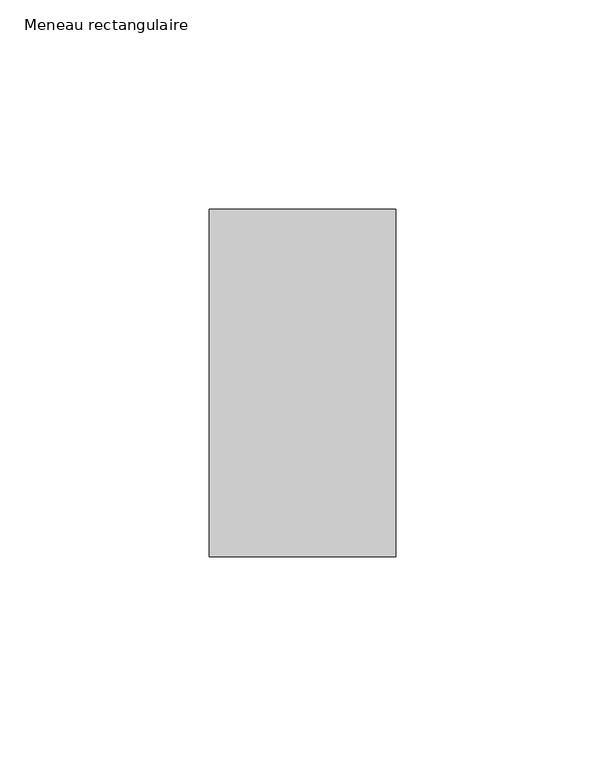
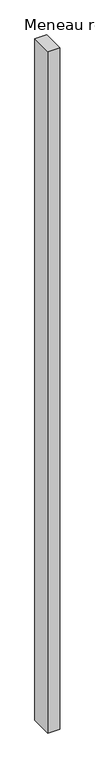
"""IFC4 building model written with IfcOpenShell, lengths in millimetres: member geometry, Meneau rectangulaire : JONCTION-ME 85-ME."""

import ifcopenshell
import ifcopenshell.guid

model = None  # the IFC model being written
_history = None  # IfcOwnerHistory: only IFC2X3 demands one
_inside = {}  # id of a spatial element -> (the spatial element, [elements in it])
_under = {}  # id of a project, library or spatial element -> (it, [spatial elements below it])
_declared = {}  # id of a project -> (the project, [libraries it declares])
_typed = {}  # id of a type object -> (the type object, [elements of that type])
_made_of = {}  # id of a material, layer set ... -> (it, [elements and type objects made of it])


def new_model(schema):
    """Start an empty IFC model of exactly this schema.

    Asked for "IFC4X3", IfcOpenShell would pick the latest addendum, in which some entities
    have other attributes; the version numbers below select the first issue.
    IFC2X3 requires an IfcOwnerHistory on every rooted entity: one is made here for all.
    """
    global model, _history
    if schema == "IFC4X3":
        model = ifcopenshell.file(schema_version=(4, 3, 0, 0))
    else:
        model = ifcopenshell.file(schema=schema)
    _inside.clear()
    _under.clear()
    _declared.clear()
    _typed.clear()
    _made_of.clear()
    _history = None
    if model.schema == "IFC2X3":
        org = make("IfcOrganization", Name="unknown")
        user = make(
            "IfcPersonAndOrganization",
            ThePerson=make("IfcPerson", FamilyName="unknown"),
            TheOrganization=org,
        )
        app = make(
            "IfcApplication",
            ApplicationDeveloper=org,
            Version="unknown",
            ApplicationFullName="unknown",
            ApplicationIdentifier="unknown",
        )
        _history = make(
            "IfcOwnerHistory",
            OwningUser=user,
            OwningApplication=app,
            ChangeAction="ADDED",
            CreationDate=0,
        )
    return model


def make(cls, **values):
    """One entity of the class cls with the attributes given. An attribute that is None is left unset."""
    return model.create_entity(
        cls, **{name: value for name, value in values.items() if value is not None}
    )


def rooted(cls, **values):
    """An entity with a GlobalId (a new one), such as an element, a storey or a relation."""
    return make(cls, GlobalId=ifcopenshell.guid.new(), OwnerHistory=_history, **values)


def si_unit(unit_type, name, prefix=None):
    """IfcSIUnit, for example si_unit("LENGTHUNIT", "METRE", prefix="MILLI")."""
    return make("IfcSIUnit", UnitType=unit_type, Prefix=prefix, Name=name)


def assignment(units):
    """IfcUnitAssignment: the units of a project."""
    return None if units is None else make("IfcUnitAssignment", Units=units)


def point(xyz):
    """IfcCartesianPoint."""
    return None if xyz is None else make("IfcCartesianPoint", Coordinates=xyz)


def direction(xyz):
    """IfcDirection."""
    return None if xyz is None else make("IfcDirection", DirectionRatios=xyz)


def frame(location, z_axis=None, x_axis=None):
    """IfcAxis2Placement3D, a coordinate frame: its origin and axes. An axis left out is left unset."""
    return make(
        "IfcAxis2Placement3D",
        Location=point(location),
        Axis=direction(z_axis),
        RefDirection=direction(x_axis),
    )


def origin():
    """The frame at (0, 0, 0) with its axes left unset."""
    return frame((0.0, 0.0, 0.0))


def place(relative_to, where):
    """IfcLocalPlacement: puts the frame where relative to a parent placement (None: the world)."""
    return make(
        "IfcLocalPlacement", PlacementRelTo=relative_to, RelativePlacement=where
    )


def context(
    kind, dimensions, precision=None, world=None, true_north=None, identifier=None
):
    """IfcGeometricRepresentationContext, for example the 3D "Model" context."""
    return make(
        "IfcGeometricRepresentationContext",
        ContextIdentifier=identifier,
        ContextType=kind,
        CoordinateSpaceDimension=dimensions,
        Precision=precision,
        WorldCoordinateSystem=world,
        TrueNorth=true_north,
    )


def project(units=None, contexts=None):
    """IfcProject with its units and contexts."""
    return rooted(
        "IfcProject",
        Name="project",
        RepresentationContexts=contexts,
        UnitsInContext=assignment(units),
    )


def spatial(cls, under=None, at=None, **own):
    """A site, building, storey or space (cls), placed at a placement, below another one or the project."""
    s = rooted(cls, ObjectPlacement=at, **own)
    if under is not None:
        _under.setdefault(under.id(), (under, []))[1].append(s)
    return s


def polyline(points):
    """IfcPolyline through the points."""
    return make("IfcPolyline", Points=[point(p) for p in points])


def outline(outer, holes=None, kind="AREA"):
    """IfcArbitraryClosedProfileDef: a profile drawn as a closed curve; with holes, ...WithVoids."""
    if holes is None:
        return make("IfcArbitraryClosedProfileDef", ProfileType=kind, OuterCurve=outer)
    return make(
        "IfcArbitraryProfileDefWithVoids",
        ProfileType=kind,
        OuterCurve=outer,
        InnerCurves=holes,
    )


def extrude(swept, where, along, depth):
    """IfcExtrudedAreaSolid: the profile swept, set in the frame where, extruded along a direction by depth."""
    return make(
        "IfcExtrudedAreaSolid",
        SweptArea=swept,
        Position=where,
        ExtrudedDirection=direction(along),
        Depth=depth,
    )


def shape(context_of_items, identifier, shape_type, items):
    """IfcShapeRepresentation: the items that make up one representation, for example the "Body"."""
    return make(
        "IfcShapeRepresentation",
        ContextOfItems=context_of_items,
        RepresentationIdentifier=identifier,
        RepresentationType=shape_type,
        Items=items,
    )


def source(mapping_origin, context_of_items, identifier, shape_type, items):
    """IfcRepresentationMap: a shape defined once, which mapped items show again and again."""
    return make(
        "IfcRepresentationMap",
        MappingOrigin=mapping_origin,
        MappedRepresentation=shape(context_of_items, identifier, shape_type, items),
    )


def transform(
    local_origin,
    x_axis=None,
    y_axis=None,
    z_axis=None,
    scale=None,
    scale2=None,
    scale3=None,
    uniform=True,
):
    """IfcCartesianTransformationOperator3D, or its non-uniform kind. x_axis, y_axis, z_axis: its Axis1, 2, 3."""
    if uniform:
        return make(
            "IfcCartesianTransformationOperator3D",
            Axis1=direction(x_axis),
            Axis2=direction(y_axis),
            LocalOrigin=point(local_origin),
            Scale=scale,
            Axis3=direction(z_axis),
        )
    return make(
        "IfcCartesianTransformationOperator3DnonUniform",
        Axis1=direction(x_axis),
        Axis2=direction(y_axis),
        LocalOrigin=point(local_origin),
        Scale=scale,
        Axis3=direction(z_axis),
        Scale2=scale2,
        Scale3=scale3,
    )


def mapped(mapping_source, mapping_target):
    """IfcMappedItem: shows the shape of a source again, moved by a transform."""
    return make(
        "IfcMappedItem", MappingSource=mapping_source, MappingTarget=mapping_target
    )


def made_of(thing, what):
    """Note that an element or type object is made of a material, layer set ...; save() writes the relation."""
    if what is not None:
        _made_of.setdefault(what.id(), (what, []))[1].append(thing)
    return thing


def element(
    cls,
    number,
    at=None,
    inside=None,
    cuts=None,
    type_object=None,
    material=None,
    context=None,
    identifier="Body",
    shape_type=None,
    held_by="IfcProductDefinitionShape",
    body=None,
    shapes=None,
    **own,
):
    """One element of the class cls, such as IfcWall. Its Tag is "e" and its number.

    at: its placement. inside: the storey or other place that contains it. cuts: it is an
    opening in that element (IfcRelVoidsElement). A single representation is given by context,
    identifier, shape_type and body (its items); several are given by shapes. held_by: the class
    of the entity that holds the representations. save() writes the other relations.
    """
    e = rooted(cls, Tag="e%d" % number, ObjectPlacement=at, **own)
    if body is not None:
        shapes = [shape(context, identifier, shape_type, body)]
    if shapes is not None:
        e.Representation = make(held_by, Representations=shapes)
    if inside is not None:
        _inside.setdefault(inside.id(), (inside, []))[1].append(e)
    if cuts is not None:
        rooted(
            "IfcRelVoidsElement", RelatingBuildingElement=cuts, RelatedOpeningElement=e
        )
    if type_object is not None:
        _typed.setdefault(type_object.id(), (type_object, []))[1].append(e)
    return made_of(e, material)


def aggregate(whole, parts):
    """IfcRelAggregates: a whole, such as a stair, and the parts it consists of."""
    return rooted("IfcRelAggregates", RelatingObject=whole, RelatedObjects=parts)


def save(model, path):
    """Write the relations noted so far, then the file.

    IfcRelAggregates (storeys below a building ...), IfcRelContainedInSpatialStructure (elements
    in a storey), IfcRelDefinesByType, IfcRelAssociatesMaterial and IfcRelDeclares: one each for
    every whole, place, type object, material and project.
    """
    for whole, parts in _under.values():
        aggregate(whole, parts)
    for where, things in _inside.values():
        rooted(
            "IfcRelContainedInSpatialStructure",
            RelatedElements=things,
            RelatingStructure=where,
        )
    for kind, things in _typed.values():
        rooted("IfcRelDefinesByType", RelatedObjects=things, RelatingType=kind)
    for what, things in _made_of.values():
        rooted("IfcRelAssociatesMaterial", RelatedObjects=things, RelatingMaterial=what)
    for by, libraries in _declared.values():
        rooted("IfcRelDeclares", RelatingContext=by, RelatedDefinitions=libraries)
    model.write(path)


def meneau_rectangulaire_f9d67303(model_context):
    return source(origin(), model_context, "Body", "SweptSolid", [
        extrude(outline(polyline([(0.0, -41.5), (-44.5, -41.5), (-44.5, 41.5), (0.0, 41.5), (0.0, -41.5)])), frame((0.0, 0.0, -2685.0), z_axis=(0.0, 0.0, 1.0), x_axis=(1.0, 0.0, 0.0)), (0.0, 0.0, 1.0), 2685.0),
    ])


if __name__ == "__main__":
    model = new_model("IFC4")
    model_context = context("Model", 3, world=origin())
    ifc_project = project(units=[si_unit("LENGTHUNIT", "METRE", prefix="MILLI")], contexts=[model_context])
    site = spatial("IfcSite", under=ifc_project)
    building = spatial("IfcBuilding", under=site)
    placement = place(None, origin())
    meneau_rectangulaire_shape = meneau_rectangulaire_f9d67303(model_context)
    element("IfcMember", 1, ObjectType="Meneau rectangulaire : JONCTION-ME 85-ME", at=placement, inside=building, context=model_context, shape_type="MappedRepresentation", body=[
        mapped(meneau_rectangulaire_shape, transform((0.0, 0.0, 0.0), x_axis=(1.0, 0.0, 0.0), y_axis=(0.0, 1.0, 0.0), z_axis=(0.0, 0.0, 1.0))),
    ])
    save(model, "model.ifc")
